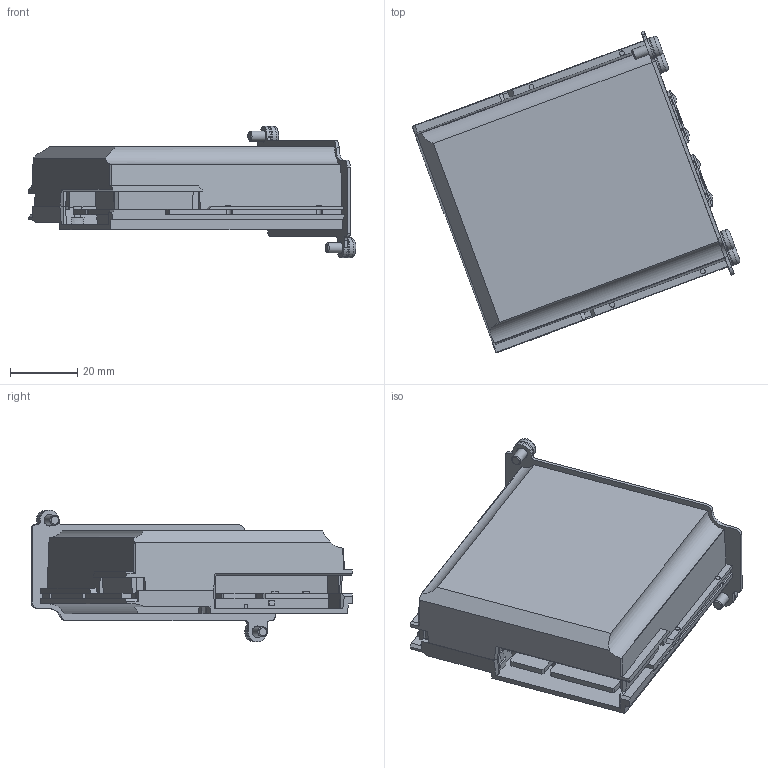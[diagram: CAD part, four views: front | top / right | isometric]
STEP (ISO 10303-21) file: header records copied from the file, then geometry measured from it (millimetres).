
FILE_DESCRIPTION(/* description */ (''),/* implementation_level */ '2;1');
FILE_NAME(/* name */ 'A:\Data\_dwg to pdf purchase\_in behandeling\step files\Interfaces step files\Int mod m-s 2.stp',/* time_stamp */ '2021-01-12T14:19:42+01:00',/* author */ ('Delta'),/* organization */ (''),/* preprocessor_version */ 'ST-DEVELOPER v17.2',/* originating_system */ 'Autodesk Inventor 2019',/* authorisation */ '');
FILE_SCHEMA (('AUTOMOTIVE_DESIGN { 1 0 10303 214 3 1 1 }'));
Length unit declared in the file: millimetre
Products named in the file (1): Int mod m-s 2
Bounding box: 97.44 x 95.71 x 39.2 mm (x, y, z)
Volume: 112900.2 mm3; surface area: 25272 mm2
Topology: 1 solids, 1 shells, 1115 faces, 3068 edges, 1961 vertices
Faces by surface type: plane 755, cylinder 189, bspline 137, cone 22, torus 8, sphere 4
Full cylindrical faces by diameter (mm): 3 x2, 3.2 x2, 3.5 x2, 6 x8
Entity records: 39042 total; most frequent: CARTESIAN_POINT 10804, ORIENTED_EDGE 6120, DIRECTION 5040, EDGE_CURVE 3060, LINE 2238, VECTOR 2238, VERTEX_POINT 1961, AXIS2_PLACEMENT_3D 1401
